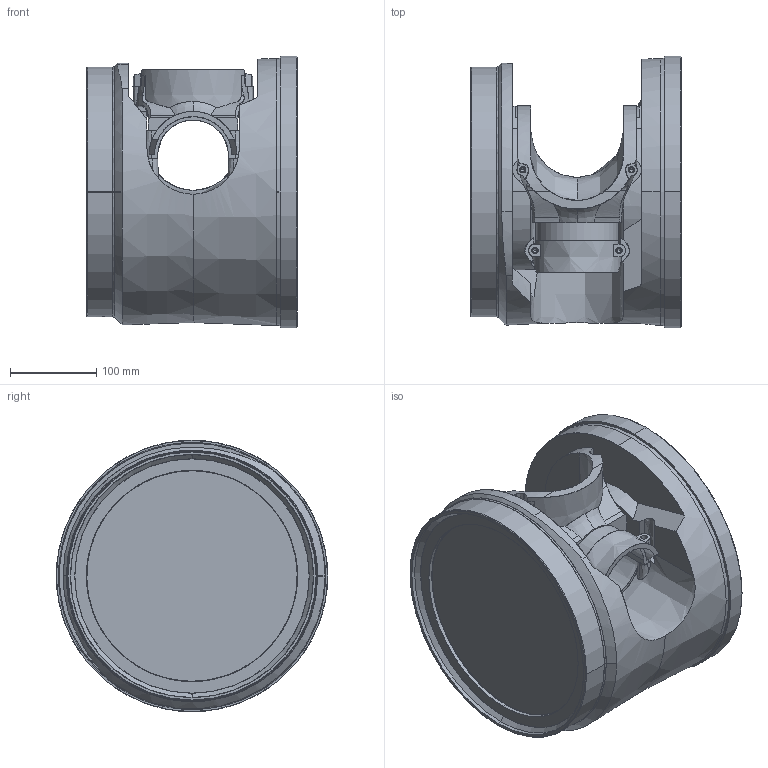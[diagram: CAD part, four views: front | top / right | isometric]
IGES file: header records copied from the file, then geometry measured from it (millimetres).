
Start section: SolidWorks IGES file using analytic representation for surfaces
Global section: file name: B:\DM\Robotics\SEROP_PROJ\Product Development\DevelopmentProjects\HD\3_Design PRMD\4_Struktur SAP o CAD\Lättmodeller\IRB8700-MH6_550-420\IRB8700-MH6_550-420_IRC5_IGES_j\IRB8700-MH6_550-420_IRC5_rev00_LINK6_CAD.IGS; native system: SolidWorks 2014; preprocessor: SolidWorks 2014; author: sepehak; date: 150604.102427; units: millimetre
Bounding box: 244.5 x 315 x 315 mm (x, y, z)
Surface area: 680845.5 mm2 (no closed solid volume)
Topology: 0 solids, 0 shells, 439 faces, 7401 edges, 7367 vertices
Faces by surface type: revolution 240, bspline 199
